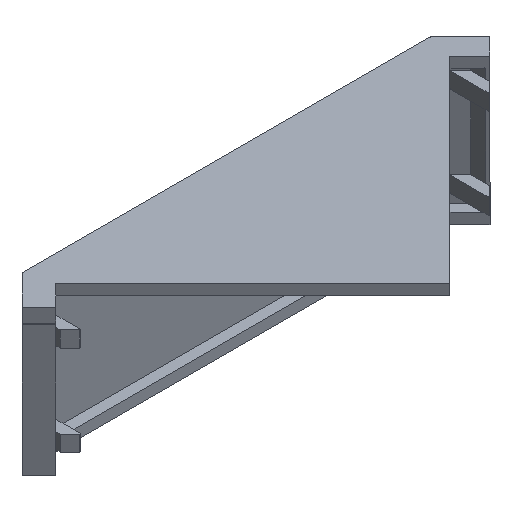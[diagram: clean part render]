
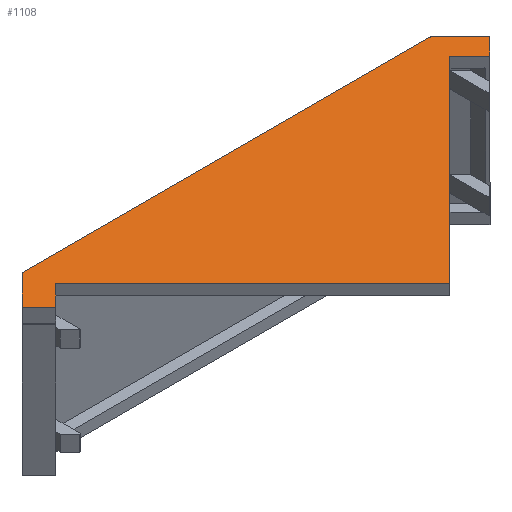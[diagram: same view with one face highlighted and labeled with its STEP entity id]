
A CAD part, isometric view. The second image highlights one B-rep face of the part: STEP entity #1108.
In plain terms, the highlighted planar face has unit normal (0, 0, 1).
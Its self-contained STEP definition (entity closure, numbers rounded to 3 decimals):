
#62 = CARTESIAN_POINT ( 'NONE',  ( -4.596, -45.627, 27.5 ) ) ;
#80 = LINE ( 'NONE', #1318, #705 ) ;
#101 = CARTESIAN_POINT ( 'NONE',  ( -43.096, -3.491, 27.5 ) ) ;
#121 = VERTEX_POINT ( 'NONE', #263 ) ;
#136 = EDGE_LOOP ( 'NONE', ( #304, #1038, #512, #1467, #841, #1242, #1194, #643, #1053 ) ) ;
#168 = EDGE_CURVE ( 'NONE', #633, #1017, #1157, .T. ) ;
#191 = DIRECTION ( 'NONE',  ( 0.707, 0.707, 0. ) ) ;
#207 = CARTESIAN_POINT ( 'NONE',  ( -4.596, -45.627, 27.5 ) ) ;
#213 = CARTESIAN_POINT ( 'NONE',  ( 33.904, -3.491, 27.5 ) ) ;
#263 = CARTESIAN_POINT ( 'NONE',  ( -41.732, -8.491, 27.5 ) ) ;
#289 = CARTESIAN_POINT ( 'NONE',  ( 39.49, -9.078, 27.5 ) ) ;
#304 = ORIENTED_EDGE ( 'NONE', *, *, #168, .F. ) ;
#327 = CARTESIAN_POINT ( 'NONE',  ( 0., 0., 27.5 ) ) ;
#390 = CARTESIAN_POINT ( 'NONE',  ( 32.54, -8.491, 27.5 ) ) ;
#395 = CARTESIAN_POINT ( 'NONE',  ( 39.49, -9.078, 27.5 ) ) ;
#439 = CARTESIAN_POINT ( 'NONE',  ( -43.096, -3.491, 27.5 ) ) ;
#458 = DIRECTION ( 'NONE',  ( 1., 0., 0. ) ) ;
#479 = CARTESIAN_POINT ( 'NONE',  ( -43.096, -3.491, 27.5 ) ) ;
#500 = VECTOR ( 'NONE', #1333, 1000. ) ;
#512 = ORIENTED_EDGE ( 'NONE', *, *, #849, .T. ) ;
#514 = VERTEX_POINT ( 'NONE', #814 ) ;
#523 = LINE ( 'NONE', #62, #527 ) ;
#527 = VECTOR ( 'NONE', #1050, 1000. ) ;
#583 = CARTESIAN_POINT ( 'NONE',  ( 36.379, -12.33, 27.5 ) ) ;
#584 = DIRECTION ( 'NONE',  ( 0.707, 0.707, 0. ) ) ;
#633 = VERTEX_POINT ( 'NONE', #289 ) ;
#643 = ORIENTED_EDGE ( 'NONE', *, *, #1021, .T. ) ;
#644 = EDGE_CURVE ( 'NONE', #121, #766, #523, .T. ) ;
#653 = LINE ( 'NONE', #1566, #500 ) ;
#705 = VECTOR ( 'NONE', #584, 1000. ) ;
#719 = EDGE_CURVE ( 'NONE', #796, #514, #733, .T. ) ;
#733 = LINE ( 'NONE', #439, #755 ) ;
#755 = VECTOR ( 'NONE', #1189, 1000. ) ;
#758 = EDGE_CURVE ( 'NONE', #1552, #1017, #832, .T. ) ;
#766 = VERTEX_POINT ( 'NONE', #207 ) ;
#796 = VERTEX_POINT ( 'NONE', #101 ) ;
#805 = EDGE_CURVE ( 'NONE', #514, #1196, #904, .T. ) ;
#812 = CARTESIAN_POINT ( 'NONE',  ( 32.54, -8.491, 27.5 ) ) ;
#814 = CARTESIAN_POINT ( 'NONE',  ( -48.753, -9.148, 27.5 ) ) ;
#832 = LINE ( 'NONE', #583, #902 ) ;
#841 = ORIENTED_EDGE ( 'NONE', *, *, #805, .T. ) ;
#849 = EDGE_CURVE ( 'NONE', #1135, #796, #1203, .T. ) ;
#902 = VECTOR ( 'NONE', #1317, 1000. ) ;
#904 = LINE ( 'NONE', #1211, #988 ) ;
#928 = VECTOR ( 'NONE', #1511, 1000. ) ;
#942 = PLANE ( 'NONE',  #1187 ) ;
#961 = CARTESIAN_POINT ( 'NONE',  ( -45.571, -12.33, 27.5 ) ) ;
#988 = VECTOR ( 'NONE', #1326, 1000. ) ;
#1017 = VERTEX_POINT ( 'NONE', #1186 ) ;
#1021 = EDGE_CURVE ( 'NONE', #766, #1552, #1202, .T. ) ;
#1038 = ORIENTED_EDGE ( 'NONE', *, *, #1198, .T. ) ;
#1050 = DIRECTION ( 'NONE',  ( 0.707, -0.707, 0. ) ) ;
#1053 = ORIENTED_EDGE ( 'NONE', *, *, #758, .T. ) ;
#1089 = EDGE_CURVE ( 'NONE', #1196, #121, #80, .T. ) ;
#1108 = ADVANCED_FACE ( 'NONE', ( #1361 ), #942, .T. ) ;
#1135 = VERTEX_POINT ( 'NONE', #213 ) ;
#1157 = LINE ( 'NONE', #395, #928 ) ;
#1183 = VECTOR ( 'NONE', #1337, 1000. ) ;
#1186 = CARTESIAN_POINT ( 'NONE',  ( 36.308, -12.259, 27.5 ) ) ;
#1187 = AXIS2_PLACEMENT_3D ( 'NONE', #327, #1206, #458 ) ;
#1189 = DIRECTION ( 'NONE',  ( -0.707, -0.707, 0. ) ) ;
#1194 = ORIENTED_EDGE ( 'NONE', *, *, #644, .T. ) ;
#1196 = VERTEX_POINT ( 'NONE', #961 ) ;
#1198 = EDGE_CURVE ( 'NONE', #633, #1135, #653, .T. ) ;
#1202 = LINE ( 'NONE', #812, #1398 ) ;
#1203 = LINE ( 'NONE', #479, #1183 ) ;
#1206 = DIRECTION ( 'NONE',  ( 0., 0., 1. ) ) ;
#1211 = CARTESIAN_POINT ( 'NONE',  ( -48.753, -9.148, 27.5 ) ) ;
#1242 = ORIENTED_EDGE ( 'NONE', *, *, #1089, .T. ) ;
#1317 = DIRECTION ( 'NONE',  ( 0.707, -0.707, 0. ) ) ;
#1318 = CARTESIAN_POINT ( 'NONE',  ( -45.571, -12.33, 27.5 ) ) ;
#1326 = DIRECTION ( 'NONE',  ( 0.707, -0.707, 0. ) ) ;
#1333 = DIRECTION ( 'NONE',  ( -0.707, 0.707, 0. ) ) ;
#1337 = DIRECTION ( 'NONE',  ( -1., 0., 0. ) ) ;
#1361 = FACE_OUTER_BOUND ( 'NONE', #136, .T. ) ;
#1398 = VECTOR ( 'NONE', #191, 1000. ) ;
#1467 = ORIENTED_EDGE ( 'NONE', *, *, #719, .T. ) ;
#1511 = DIRECTION ( 'NONE',  ( -0.707, -0.707, 0. ) ) ;
#1552 = VERTEX_POINT ( 'NONE', #390 ) ;
#1566 = CARTESIAN_POINT ( 'NONE',  ( 33.904, -3.491, 27.5 ) ) ;
